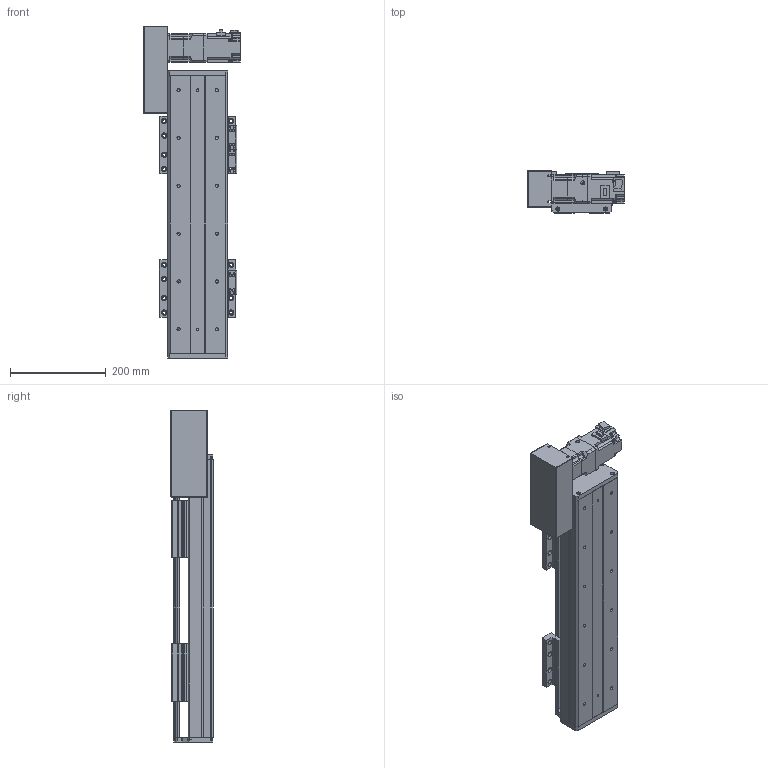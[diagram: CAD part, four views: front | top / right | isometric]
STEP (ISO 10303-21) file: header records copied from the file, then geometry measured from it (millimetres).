
FILE_DESCRIPTION(/* description */ (''),/* implementation_level */ '2;1');
FILE_NAME(/* name */ 'D:\(주)디에스알-FILESERVER\A-\X2\C124ACC4\X0\\A-개발\A-2017년\G-\X2\B85CBD07C678D615B3C4\X0\\B-3D\B-DSB\A-DSB125\A-L TYPE\DSB125-L2G-W0300-R.stp',/* time_stamp */ '2018-06-12T18:08:10-07:00',/* author */ ('PC'),/* organization */ (''),/* preprocessor_version */ 'ST-DEVELOPER v16.5',/* originating_system */ 'Autodesk Inventor 2017',/* authorisation */ '');
FILE_SCHEMA (('AUTOMOTIVE_DESIGN { 1 0 10303 214 3 1 1 }'));
Length unit declared in the file: millimetre
Products named in the file (12): DSB125-L-300ST; DSR125-BASE(S-TYPE); DSR125-REAR COVER-R01(170203); DSR125-REAR COVER-R01(170203)_1; DSR125-UP COVER-R01(170203); DSR125-TABLE(MSA15X); hg-kr23_; ab0601-p0401200402; 13-BELT COVER; DSR126-SENSOR DOG; pm-y65_step; SENSOR BRACKET(EE-SX674A)
Assembly tree (16 placements, depth 2):
  DSB125-L-300ST
    DSR125-BASE(S-TYPE)
    DSR125-REAR COVER-R01(170203)
    DSR125-REAR COVER-R01(170203)_1
    DSR125-UP COVER-R01(170203)
    DSR125-TABLE(MSA15X)  x2
    hg-kr23_
    ab0601-p0401200402
    13-BELT COVER
    DSR126-SENSOR DOG
    pm-y65_step  x3
    SENSOR BRACKET(EE-SX674A)  x3
Bounding box: 202.1 x 88 x 694 mm (x, y, z)
Volume: 2855265.7 mm3; surface area: 827258.4 mm2
Topology: 17 solids, 22 shells, 1645 faces, 4461 edges, 2946 vertices
Faces by surface type: plane 908, cylinder 623, cone 102, sphere 8, torus 4
Full cylindrical faces by diameter (mm): 2.459 x20, 3.242 x16, 3.5 x6, 4 x1, 4.134 x16, 4.2 x4, 4.3 x1, 4.5 x50, 4.917 x20, 5 x27, 5.3 x1, 5.5 x4, 5.6 x8, 5.8 x4, 5.9 x8, 6 x4, 6.6 x22, 6.647 x12, 7.5 x32, 8.5 x8, 8.7 x1, 11 x22, 14 x1, 16 x2, 17 x1, 20 x1, 47 x1, 50 x3
Entity records: 35030 total; most frequent: CARTESIAN_POINT 6451, DIRECTION 6060, ORIENTED_EDGE 5446, EDGE_CURVE 2728, AXIS2_PLACEMENT_3D 2218, VERTEX_POINT 1937, EDGE_LOOP 1641, LINE 1624
